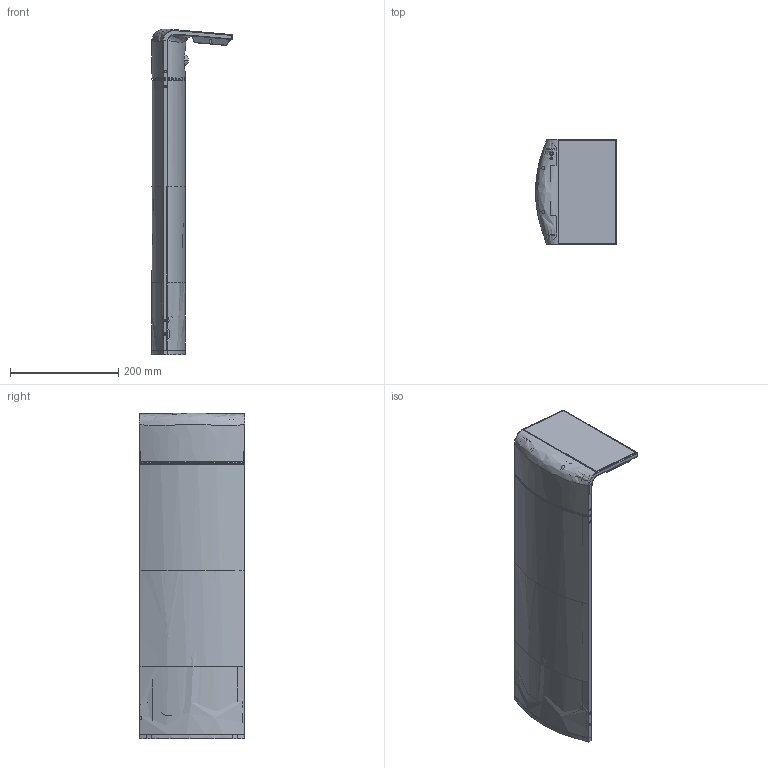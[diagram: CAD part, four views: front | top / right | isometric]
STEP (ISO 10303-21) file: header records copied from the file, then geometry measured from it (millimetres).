
FILE_DESCRIPTION(/* description */ (''),/* implementation_level */ '2;1');
FILE_NAME(/* name */ '74458_3d',/* time_stamp */ '2026-05-18T09:27:26+02:00',/* author */ (''),/* organization */ (''),/* preprocessor_version */ 'ST-DEVELOPER v19.2',/* originating_system */ 'Rhino 8.30',/* authorisation */ '');
FILE_SCHEMA (('CONFIG_CONTROL_DESIGN'));
Length unit declared in the file: millimetre
Products named in the file (1): Document
Bounding box: 149.2 x 194.56 x 600.85 mm (x, y, z)
Volume: 436590.5 mm3; surface area: 890240.8 mm2
Topology: 7 solids, 297 shells, 1676 faces, 5041 edges, 3847 vertices
Faces by surface type: plane 974, cylinder 476, bspline 226
Entity records: 71608 total; most frequent: CARTESIAN_POINT 37074, ORIENTED_EDGE 7896, EDGE_CURVE 4640, B_SPLINE_CURVE_WITH_KNOTS 4360, VERTEX_POINT 3457, DIRECTION 2714, AXIS2_PLACEMENT_3D 2082, EDGE_LOOP 1888
